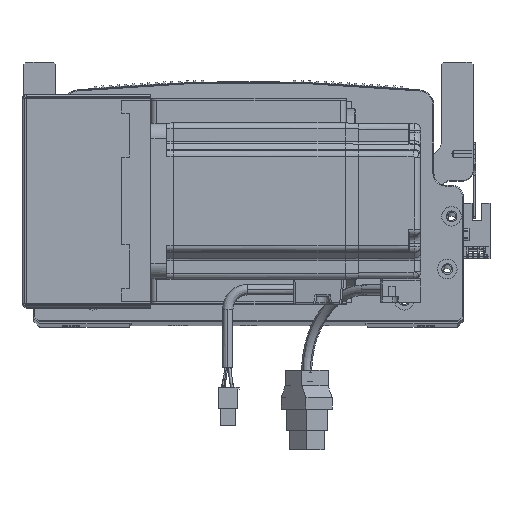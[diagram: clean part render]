
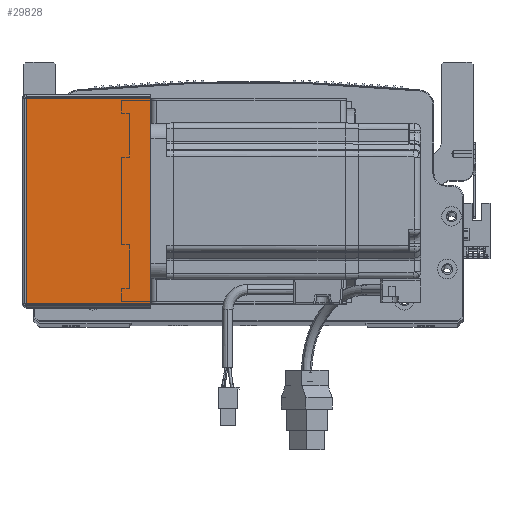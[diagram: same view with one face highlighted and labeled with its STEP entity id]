
A CAD part, top view. The second image highlights one B-rep face of the part: STEP entity #29828.
In plain terms, the highlighted planar face has unit normal (0, 0, 1) as drawn and (0, 0, -1) by its records, which use the part's own axes.
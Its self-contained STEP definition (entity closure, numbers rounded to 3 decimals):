
#1137 = DIRECTION ( 'NONE',  ( 0., 0., 1. ) ) ;
#3525 = EDGE_CURVE ( 'NONE', #65284, #40112, #54790, .T. ) ;
#4966 = LINE ( 'NONE', #67110, #66004 ) ;
#10573 = CARTESIAN_POINT ( 'NONE',  ( 0.737, 0.707, -205.5 ) ) ;
#14095 = CARTESIAN_POINT ( 'NONE',  ( 0., 105.293, -205.5 ) ) ;
#14822 = CARTESIAN_POINT ( 'NONE',  ( 0., 0.707, -205.5 ) ) ;
#18468 = VECTOR ( 'NONE', #74367, 1000. ) ;
#20291 = DIRECTION ( 'NONE',  ( 0., -1., 0. ) ) ;
#23948 = EDGE_CURVE ( 'NONE', #46924, #67307, #4966, .T. ) ;
#24825 = ORIENTED_EDGE ( 'NONE', *, *, #84702, .F. ) ;
#29828 = ADVANCED_FACE ( 'NONE', ( #43295 ), #60432, .F. ) ;
#30369 = AXIS2_PLACEMENT_3D ( 'NONE', #73226, #1137, #79837 ) ;
#31845 = EDGE_CURVE ( 'NONE', #46924, #65284, #62837, .T. ) ;
#35207 = CARTESIAN_POINT ( 'NONE',  ( 64.5, 0.707, -205.5 ) ) ;
#40112 = VERTEX_POINT ( 'NONE', #35207 ) ;
#41540 = CARTESIAN_POINT ( 'NONE',  ( 64.5, 0., -205.5 ) ) ;
#43295 = FACE_OUTER_BOUND ( 'NONE', #45916, .T. ) ;
#45233 = VECTOR ( 'NONE', #79134, 1000. ) ;
#45916 = EDGE_LOOP ( 'NONE', ( #49011, #74660, #79435, #24825 ) ) ;
#46924 = VERTEX_POINT ( 'NONE', #76019 ) ;
#49011 = ORIENTED_EDGE ( 'NONE', *, *, #23948, .F. ) ;
#54790 = LINE ( 'NONE', #41540, #58989 ) ;
#58989 = VECTOR ( 'NONE', #80599, 1000. ) ;
#60432 = PLANE ( 'NONE',  #30369 ) ;
#62837 = LINE ( 'NONE', #14095, #45233 ) ;
#65284 = VERTEX_POINT ( 'NONE', #78508 ) ;
#66004 = VECTOR ( 'NONE', #20291, 1000. ) ;
#67110 = CARTESIAN_POINT ( 'NONE',  ( 0.737, 0., -205.5 ) ) ;
#67307 = VERTEX_POINT ( 'NONE', #10573 ) ;
#73226 = CARTESIAN_POINT ( 'NONE',  ( 0., 0., -205.5 ) ) ;
#74367 = DIRECTION ( 'NONE',  ( 1., 0., 0. ) ) ;
#74660 = ORIENTED_EDGE ( 'NONE', *, *, #31845, .T. ) ;
#76019 = CARTESIAN_POINT ( 'NONE',  ( 0.737, 105.293, -205.5 ) ) ;
#78508 = CARTESIAN_POINT ( 'NONE',  ( 64.5, 105.293, -205.5 ) ) ;
#79134 = DIRECTION ( 'NONE',  ( 1., 0., 0. ) ) ;
#79435 = ORIENTED_EDGE ( 'NONE', *, *, #3525, .T. ) ;
#79837 = DIRECTION ( 'NONE',  ( 1., 0., 0. ) ) ;
#80599 = DIRECTION ( 'NONE',  ( 0., -1., 0. ) ) ;
#81580 = LINE ( 'NONE', #14822, #18468 ) ;
#84702 = EDGE_CURVE ( 'NONE', #67307, #40112, #81580, .T. ) ;
